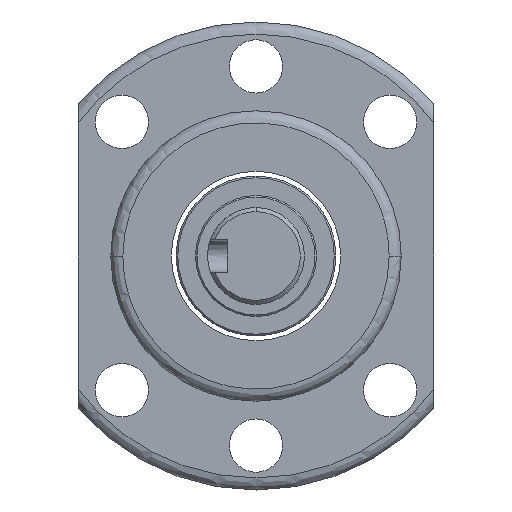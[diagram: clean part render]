
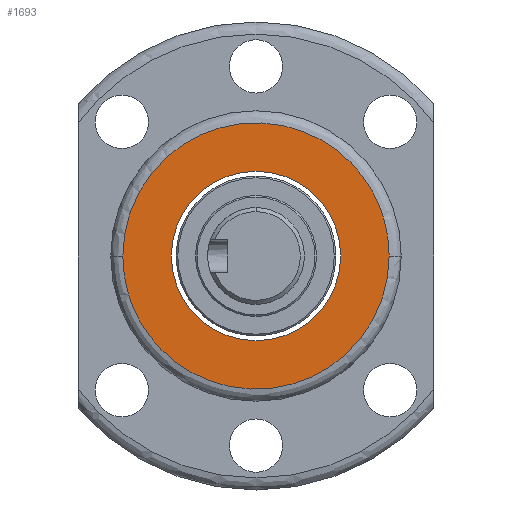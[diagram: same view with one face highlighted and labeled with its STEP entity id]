
A CAD part, left-side view. The second image highlights one B-rep face of the part: STEP entity #1693.
In plain terms, the highlighted planar face has unit normal (-1, 0, 0).
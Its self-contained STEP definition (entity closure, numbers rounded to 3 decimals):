
#27 = DIRECTION ( 'NONE',  ( -1., 0., 0. ) ) ;
#161 = AXIS2_PLACEMENT_3D ( 'NONE', #303, #1127, #2027 ) ;
#303 = CARTESIAN_POINT ( 'NONE',  ( -66., 0., 0. ) ) ;
#312 = VERTEX_POINT ( 'NONE', #443 ) ;
#349 = CARTESIAN_POINT ( 'NONE',  ( -66., 16.5, 0. ) ) ;
#443 = CARTESIAN_POINT ( 'NONE',  ( -66., 0., 10.5 ) ) ;
#638 = CARTESIAN_POINT ( 'NONE',  ( -66., 0., -10.5 ) ) ;
#666 = EDGE_CURVE ( 'NONE', #1407, #1660, #2276, .T. ) ;
#948 = FACE_OUTER_BOUND ( 'NONE', #1369, .T. ) ;
#954 = ORIENTED_EDGE ( 'NONE', *, *, #1296, .T. ) ;
#1008 = CARTESIAN_POINT ( 'NONE',  ( -66., -16.5, -33. ) ) ;
#1127 = DIRECTION ( 'NONE',  ( 1., 0., 0. ) ) ;
#1233 = CARTESIAN_POINT ( 'NONE',  ( -66., -16.5, 0. ) ) ;
#1255 = CARTESIAN_POINT ( 'NONE',  ( -66., 16.5, 0. ) ) ;
#1296 = EDGE_CURVE ( 'NONE', #312, #1456, #1643, .T. ) ;
#1312 = AXIS2_PLACEMENT_3D ( 'NONE', #1833, #27, #2448 ) ;
#1369 = EDGE_LOOP ( 'NONE', ( #2610, #1968 ) ) ;
#1407 = VERTEX_POINT ( 'NONE', #2337 ) ;
#1426 = CARTESIAN_POINT ( 'NONE',  ( -66., -16.5, 33. ) ) ;
#1452 = CARTESIAN_POINT ( 'NONE',  ( -66., 16.5, 0. ) ) ;
#1456 = VERTEX_POINT ( 'NONE', #638 ) ;
#1523 = ORIENTED_EDGE ( 'NONE', *, *, #2349, .T. ) ;
#1608 = CIRCLE ( 'NONE', #2768, 10.5 ) ;
#1640 = CARTESIAN_POINT ( 'NONE',  ( -66., -16.5, 0. ) ) ;
#1643 = CIRCLE ( 'NONE', #161, 10.5 ) ;
#1648 = DIRECTION ( 'NONE',  ( 0., 0., 1. ) ) ;
#1660 = VERTEX_POINT ( 'NONE', #1255 ) ;
#1693 = ADVANCED_FACE ( 'NONE', ( #2810, #948 ), #2503, .T. ) ;
#1833 = CARTESIAN_POINT ( 'NONE',  ( -66., 14.75, 0. ) ) ;
#1968 = ORIENTED_EDGE ( 'NONE', *, *, #2016, .F. ) ;
#2002 =( BOUNDED_CURVE ( )  B_SPLINE_CURVE ( 3, ( #1452, #2289, #1426, #1640 ),
 .UNSPECIFIED., .F., .T. ) 
 B_SPLINE_CURVE_WITH_KNOTS ( ( 4, 4 ),
 ( 0., 1. ),
 .UNSPECIFIED. ) 
 CURVE ( )  GEOMETRIC_REPRESENTATION_ITEM ( )  RATIONAL_B_SPLINE_CURVE ( ( 1., 0.333, 0.333, 1. ) ) 
 REPRESENTATION_ITEM ( '' )  );
#2016 = EDGE_CURVE ( 'NONE', #1660, #1407, #2002, .T. ) ;
#2027 = DIRECTION ( 'NONE',  ( 0., 0., 1. ) ) ;
#2068 = CARTESIAN_POINT ( 'NONE',  ( -66., 0., 0. ) ) ;
#2276 =( BOUNDED_CURVE ( )  B_SPLINE_CURVE ( 3, ( #1233, #1008, #2556, #349 ),
 .UNSPECIFIED., .F., .F. ) 
 B_SPLINE_CURVE_WITH_KNOTS ( ( 4, 4 ),
 ( 0., 1. ),
 .UNSPECIFIED. ) 
 CURVE ( )  GEOMETRIC_REPRESENTATION_ITEM ( )  RATIONAL_B_SPLINE_CURVE ( ( 1., 0.333, 0.333, 1. ) ) 
 REPRESENTATION_ITEM ( '' )  );
#2289 = CARTESIAN_POINT ( 'NONE',  ( -66., 16.5, 33. ) ) ;
#2337 = CARTESIAN_POINT ( 'NONE',  ( -66., -16.5, 0. ) ) ;
#2349 = EDGE_CURVE ( 'NONE', #1456, #312, #1608, .T. ) ;
#2448 = DIRECTION ( 'NONE',  ( 0., 1., 0. ) ) ;
#2503 = PLANE ( 'NONE',  #1312 ) ;
#2551 = DIRECTION ( 'NONE',  ( 1., 0., 0. ) ) ;
#2556 = CARTESIAN_POINT ( 'NONE',  ( -66., 16.5, -33. ) ) ;
#2610 = ORIENTED_EDGE ( 'NONE', *, *, #666, .F. ) ;
#2768 = AXIS2_PLACEMENT_3D ( 'NONE', #2068, #2551, #1648 ) ;
#2810 = FACE_BOUND ( 'NONE', #2855, .T. ) ;
#2855 = EDGE_LOOP ( 'NONE', ( #954, #1523 ) ) ;
